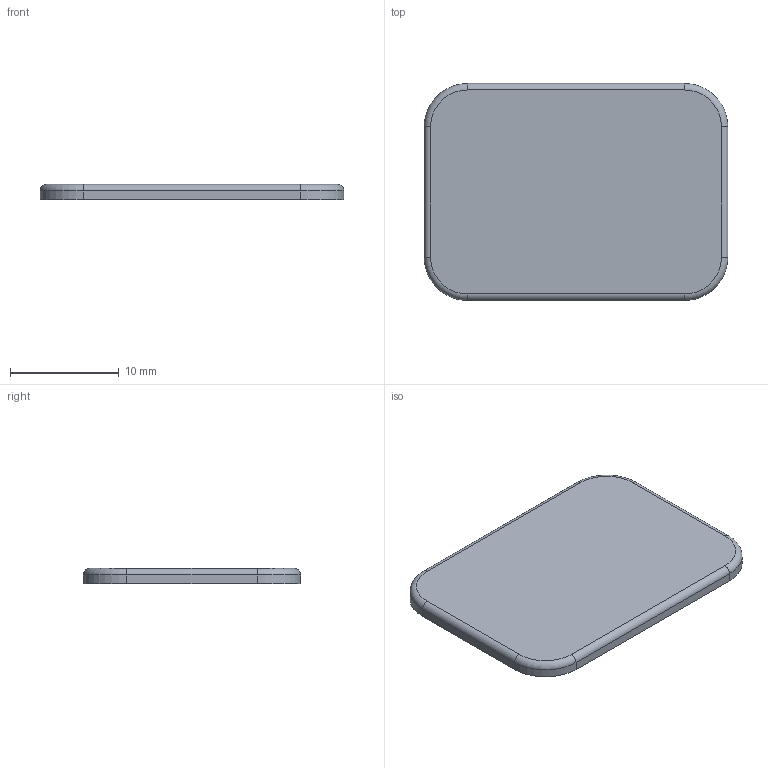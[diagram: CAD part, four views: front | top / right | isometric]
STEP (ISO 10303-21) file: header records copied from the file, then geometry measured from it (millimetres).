
FILE_DESCRIPTION(('Open CASCADE Model'),'2;1');
FILE_NAME('Open CASCADE Shape Model','2026-10-04T21:33:04',('Author'),( 'Open CASCADE'),'Open CASCADE STEP processor 7.9','Open CASCADE 7.9' ,'Unknown');
FILE_SCHEMA(('AUTOMOTIVE_DESIGN { 1 0 10303 214 1 1 1 1 }'));
Length unit declared in the file: millimetre
Products named in the file (1): Open CASCADE STEP translator 7.9 6
Bounding box: 28 x 20 x 1.4 mm (x, y, z)
Volume: 758 mm3; surface area: 1194.2 mm2
Topology: 1 solids, 1 shells, 18 faces, 40 edges, 24 vertices
Faces by surface type: cylinder 8, plane 6, torus 4
Entity records: 1032 total; most frequent: CARTESIAN_POINT 215, DIRECTION 156, ORIENTED_EDGE 80, PCURVE 80, DEFINITIONAL_REPRESENTATION 80, LINE 76, VECTOR 76, EDGE_CURVE 40
